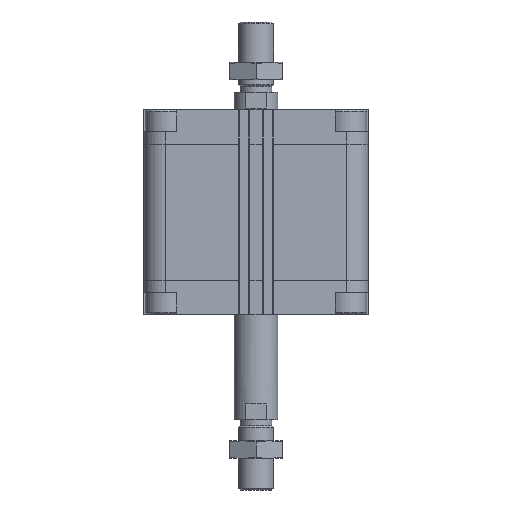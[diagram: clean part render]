
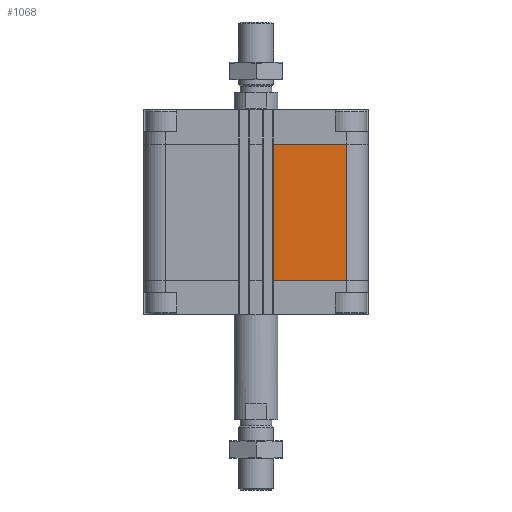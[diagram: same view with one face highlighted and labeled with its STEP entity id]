
A CAD part, front view. The second image highlights one B-rep face of the part: STEP entity #1068.
In plain terms, the highlighted planar face has unit normal (0, -1, 0).
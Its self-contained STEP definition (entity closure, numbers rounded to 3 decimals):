
#468 = EDGE_LOOP ( 'NONE', ( #19628, #18402, #10386, #13923 ) ) ;
#819 = AXIS2_PLACEMENT_3D ( 'NONE', #18194, #2239, #9337 ) ;
#1068 = ADVANCED_FACE ( 'NONE', ( #2133 ), #19950, .T. ) ;
#2133 = FACE_OUTER_BOUND ( 'NONE', #468, .T. ) ;
#2239 = DIRECTION ( 'NONE',  ( 0., -1., 0. ) ) ;
#2267 = VECTOR ( 'NONE', #12625, 1000. ) ;
#3263 = VERTEX_POINT ( 'NONE', #12176 ) ;
#4074 = VECTOR ( 'NONE', #10822, 1000. ) ;
#5341 = VERTEX_POINT ( 'NONE', #17509 ) ;
#6932 = VERTEX_POINT ( 'NONE', #20282 ) ;
#9337 = DIRECTION ( 'NONE',  ( -1., 0., 0. ) ) ;
#10386 = ORIENTED_EDGE ( 'NONE', *, *, #21567, .T. ) ;
#10813 = DIRECTION ( 'NONE',  ( 0., 0., 1. ) ) ;
#10822 = DIRECTION ( 'NONE',  ( 0., 0., 1. ) ) ;
#11213 = EDGE_CURVE ( 'NONE', #6932, #11697, #15846, .T. ) ;
#11697 = VERTEX_POINT ( 'NONE', #21064 ) ;
#12176 = CARTESIAN_POINT ( 'NONE',  ( 9.95, -64., -19.5 ) ) ;
#12625 = DIRECTION ( 'NONE',  ( 1., 0., 0. ) ) ;
#12737 = EDGE_CURVE ( 'NONE', #3263, #11697, #14484, .T. ) ;
#13297 = CARTESIAN_POINT ( 'NONE',  ( 9.95, -64., -97. ) ) ;
#13923 = ORIENTED_EDGE ( 'NONE', *, *, #11213, .T. ) ;
#14484 = LINE ( 'NONE', #16256, #2267 ) ;
#15846 = LINE ( 'NONE', #22963, #4074 ) ;
#15952 = VECTOR ( 'NONE', #10813, 1000. ) ;
#16256 = CARTESIAN_POINT ( 'NONE',  ( 9.95, -64., -19.5 ) ) ;
#16391 = VECTOR ( 'NONE', #20417, 1000. ) ;
#17509 = CARTESIAN_POINT ( 'NONE',  ( 9.95, -64., -97. ) ) ;
#18155 = CARTESIAN_POINT ( 'NONE',  ( 9.95, -64., -97. ) ) ;
#18194 = CARTESIAN_POINT ( 'NONE',  ( 9.95, -64., -97. ) ) ;
#18402 = ORIENTED_EDGE ( 'NONE', *, *, #19574, .F. ) ;
#19574 = EDGE_CURVE ( 'NONE', #5341, #3263, #19679, .T. ) ;
#19628 = ORIENTED_EDGE ( 'NONE', *, *, #12737, .F. ) ;
#19679 = LINE ( 'NONE', #18155, #15952 ) ;
#19950 = PLANE ( 'NONE',  #819 ) ;
#20282 = CARTESIAN_POINT ( 'NONE',  ( 51.5, -64., -97. ) ) ;
#20417 = DIRECTION ( 'NONE',  ( 1., 0., 0. ) ) ;
#21064 = CARTESIAN_POINT ( 'NONE',  ( 51.5, -64., -19.5 ) ) ;
#21567 = EDGE_CURVE ( 'NONE', #5341, #6932, #22173, .T. ) ;
#22173 = LINE ( 'NONE', #13297, #16391 ) ;
#22963 = CARTESIAN_POINT ( 'NONE',  ( 51.5, -64., -97. ) ) ;
